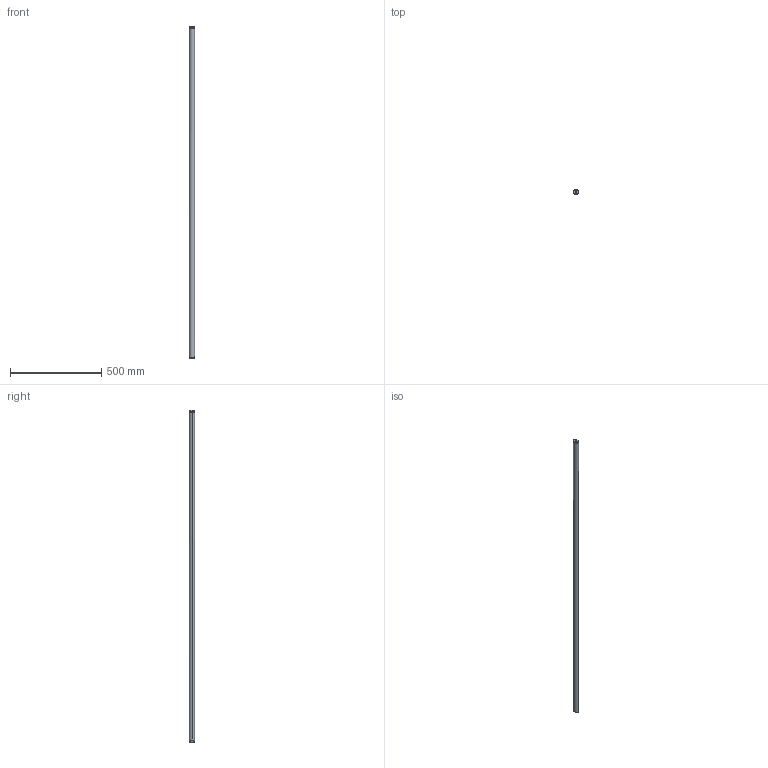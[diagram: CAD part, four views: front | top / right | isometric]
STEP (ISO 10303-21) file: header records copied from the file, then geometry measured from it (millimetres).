
FILE_DESCRIPTION (( 'STEP AP214' ), '1' );
FILE_NAME ('PL01-28x1820!1740.STEP', '2009-02-26T08:08:05', ( 'mittelholzer' ), ( '' ), 'SwSTEP 2.0', 'SolidWorks 2005037', '' );
FILE_SCHEMA (( 'AUTOMOTIVE_DESIGN' ));
Length unit declared in the file: millimetre
Products named in the file (1): PL01-28x1820!1740
Bounding box: 28 x 28 x 1820 mm (x, y, z)
Volume: 1117269 mm3; surface area: 162052.4 mm2
Topology: 1 solids, 1 shells, 41 faces, 104 edges, 68 vertices
Faces by surface type: plane 15, cylinder 10, torus 8, cone 8
Entity records: 1353 total; most frequent: CARTESIAN_POINT 374, ORIENTED_EDGE 208, DIRECTION 192, EDGE_CURVE 104, AXIS2_PLACEMENT_3D 78, VERTEX_POINT 68, EDGE_LOOP 44, FACE_OUTER_BOUND 41
